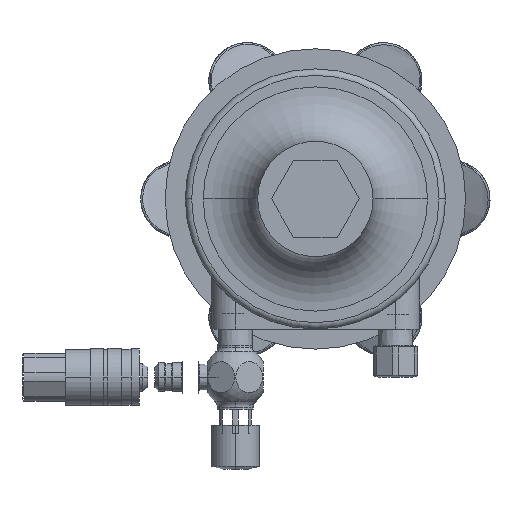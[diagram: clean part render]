
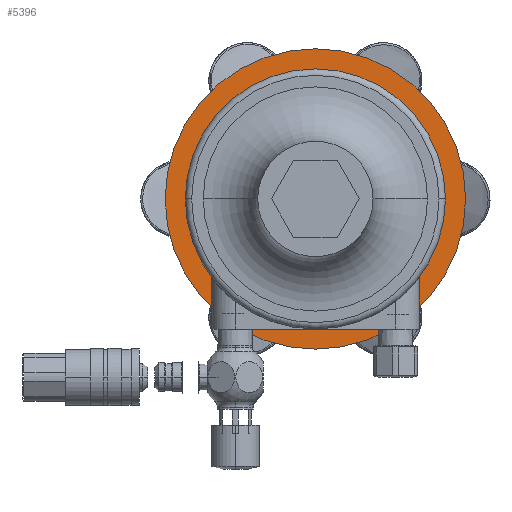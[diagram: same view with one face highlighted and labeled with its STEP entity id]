
A CAD part, front view. The second image highlights one B-rep face of the part: STEP entity #5396.
In plain terms, the highlighted planar face has unit normal (0, -1, 0).
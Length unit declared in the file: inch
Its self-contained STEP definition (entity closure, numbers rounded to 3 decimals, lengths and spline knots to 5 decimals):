
#5329=CARTESIAN_POINT('',(0.,4.5025,0.));
#5330=DIRECTION('',(0.,-1.,0.));
#5331=DIRECTION('',(1.,0.,0.));
#5332=AXIS2_PLACEMENT_3D('',#5329,#5330,#5331);
#5334=CARTESIAN_POINT('',(0.,4.5025,0.));
#5335=DIRECTION('',(0.,-1.,0.));
#5336=DIRECTION('',(-1.,0.,0.));
#5337=AXIS2_PLACEMENT_3D('',#5334,#5335,#5336);
#5343=CARTESIAN_POINT('',(2.34375,4.5025,0.));
#5344=CARTESIAN_POINT('',(-2.34375,4.5025,0.));
#5345=VERTEX_POINT('',#5343);
#5346=VERTEX_POINT('',#5344);
#5387=CARTESIAN_POINT('',(0.,4.5025,0.));
#5388=DIRECTION('',(0.,-1.,0.));
#5389=DIRECTION('',(1.,0.,0.));
#5390=AXIS2_PLACEMENT_3D('',#5387,#5388,#5389);
#5391=PLANE('',#5390);
#5392=ORIENTED_EDGE('',*,*,#5367,.F.);
#5393=ORIENTED_EDGE('',*,*,#5381,.F.);
#5394=EDGE_LOOP('',(#5392,#5393));
#5395=FACE_OUTER_BOUND('',#5394,.F.);
#5396=ADVANCED_FACE('',(#5395),#5391,.T.);
#5333=CIRCLE('',#5332,2.34375);
#5338=CIRCLE('',#5337,2.34375);
#5367=EDGE_CURVE('',#5345,#5346,#5333,.T.);
#5381=EDGE_CURVE('',#5346,#5345,#5338,.T.);
